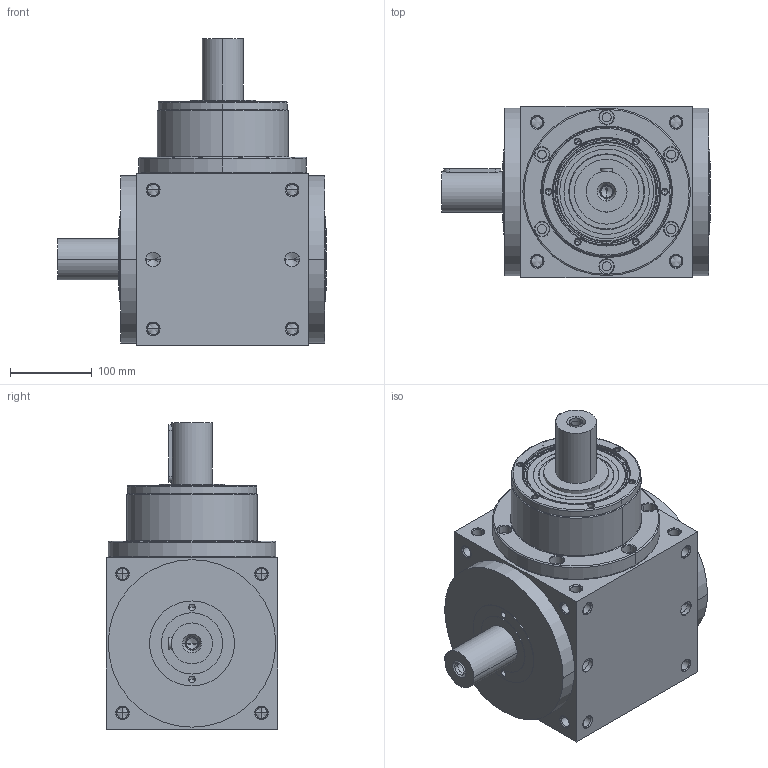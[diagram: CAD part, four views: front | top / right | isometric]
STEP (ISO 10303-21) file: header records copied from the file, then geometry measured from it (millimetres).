
FILE_DESCRIPTION((''),'2;1');
FILE_NAME('AT210L1-1_ASM','2008-12-31T',('d00176'),(''),'PRO/ENGINEER BY PARAMETRIC TECHNOLOGY CORPORATION, 2006170','PRO/ENGINEER BY PARAMETRIC TECHNOLOGY CORPORATION, 2006170','');
FILE_SCHEMA(('CONFIG_CONTROL_DESIGN'));
Length unit declared in the file: millimetre
Products named in the file (4): ATL1-HOUSING-1-8; P1801800001; 22400071008; AT210L1-1_ASM
Assembly tree (3 placements, depth 2):
  AT210L1-1_ASM
    ATL1-HOUSING-1-8
    P1801800001
    22400071008
Bounding box: 329 x 210 x 375 mm (x, y, z)
Volume: 12113332.3 mm3; surface area: 582280.3 mm2
Topology: 4 solids, 36 shells, 591 faces, 1462 edges, 865 vertices
Faces by surface type: cylinder 274, cone 206, plane 75, torus 36
Entity records: 17758 total; most frequent: CARTESIAN_POINT 3809, DIRECTION 3130, ORIENTED_EDGE 2640, EDGE_CURVE 1384, AXIS2_PLACEMENT_3D 1312, VERTEX_POINT 865, CIRCLE 710, EDGE_LOOP 703
